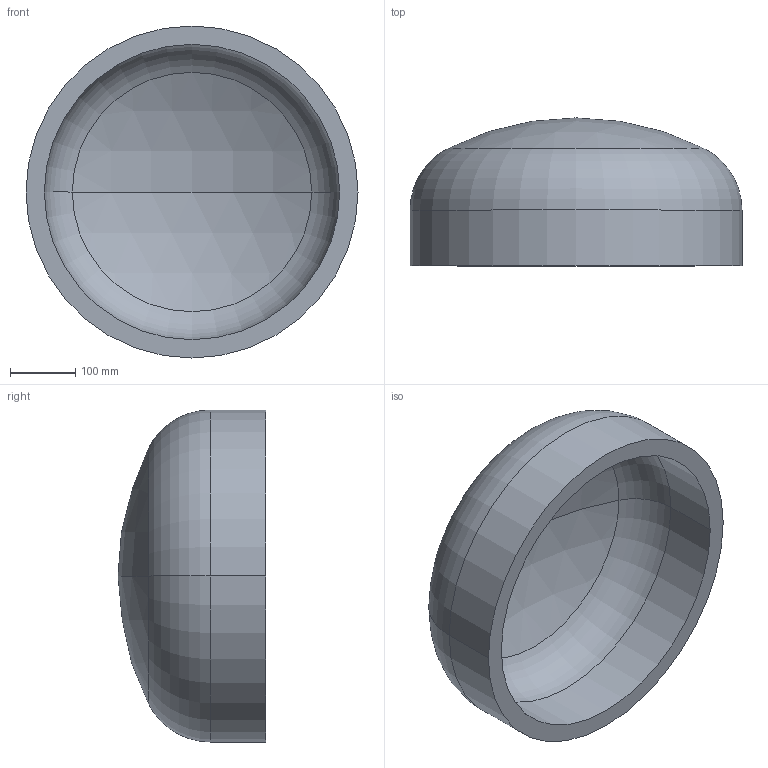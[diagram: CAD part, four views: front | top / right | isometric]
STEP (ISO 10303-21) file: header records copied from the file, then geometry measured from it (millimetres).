
FILE_DESCRIPTION (( 'STEP AP203' ), '1' );
FILE_NAME ('DIN 28013 Korbbogenform_-_Boden DIN 28013 - 508 x 85 - I - s=28.step', '2016-07-01T07:53:41', ( '' ), ( '' ), 'SwSTEP 2.0', 'SolidWorks 2013', '' );
FILE_SCHEMA (( 'CONFIG_CONTROL_DESIGN' ));
Length unit declared in the file: millimetre
Products named in the file (1): DIN 28013 Korbbogenform_-_Boden DIN 28013 - 508 x 85 - I - s=28
Bounding box: 508 x 226.29 x 508 mm (x, y, z)
Volume: 10909533.5 mm3; surface area: 823117.3 mm2
Topology: 1 solids, 1 shells, 13 faces, 24 edges, 14 vertices
Faces by surface type: torus 4, cylinder 4, sphere 4, plane 1
Entity records: 407 total; most frequent: DIRECTION 72, CARTESIAN_POINT 52, ORIENTED_EDGE 48, AXIS2_PLACEMENT_3D 34, EDGE_CURVE 24, CIRCLE 20, EDGE_LOOP 14, VERTEX_POINT 14
